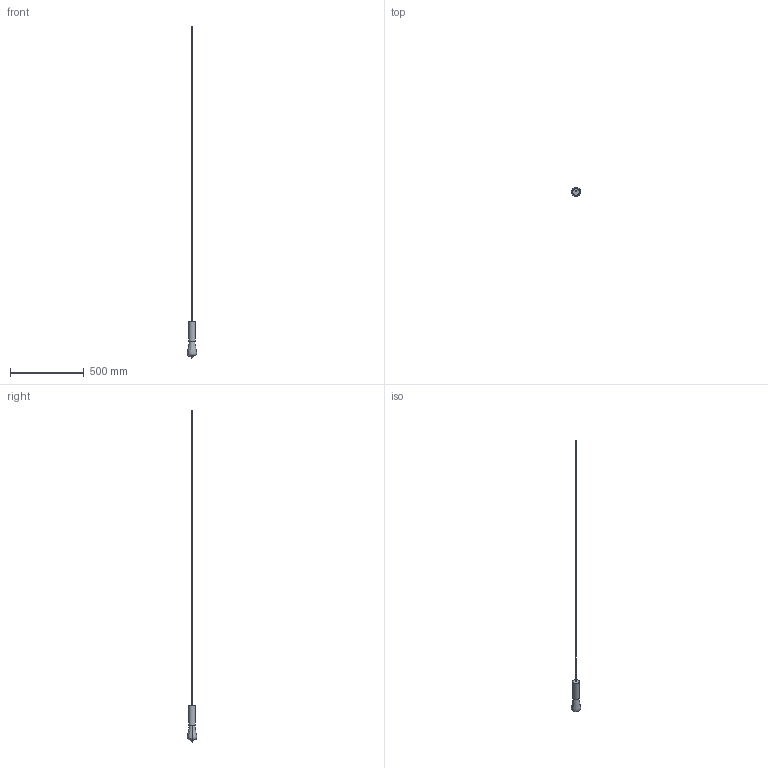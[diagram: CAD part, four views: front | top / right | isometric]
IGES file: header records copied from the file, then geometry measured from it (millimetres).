
Global section: file name: /Users/064_p/Desktop/3d data_02/ILKW_CORE4.5_Pendant_3D.igs; native system: Rhinoceros ( Jul  7 2025 ); preprocessor: Trout Lake IGES 012 Jul  7 2025; date: 260828.085248; units: millimetre
Bounding box: 63.92 x 63.89 x 2249.53 mm (x, y, z)
Surface area: 82979.5 mm2 (no closed solid volume)
Topology: 0 solids, 0 shells, 7 faces, 30 edges, 26 vertices
Faces by surface type: bspline 7
